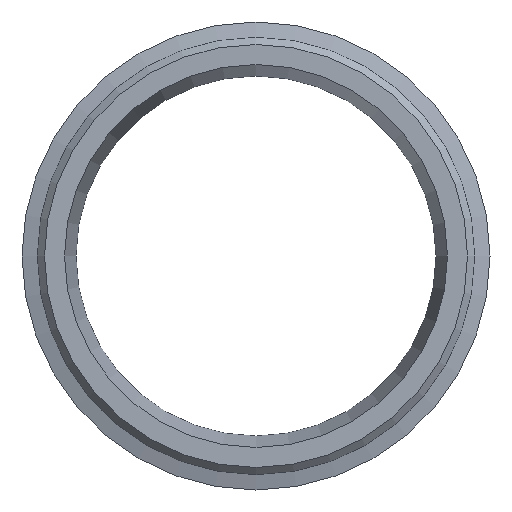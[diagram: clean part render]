
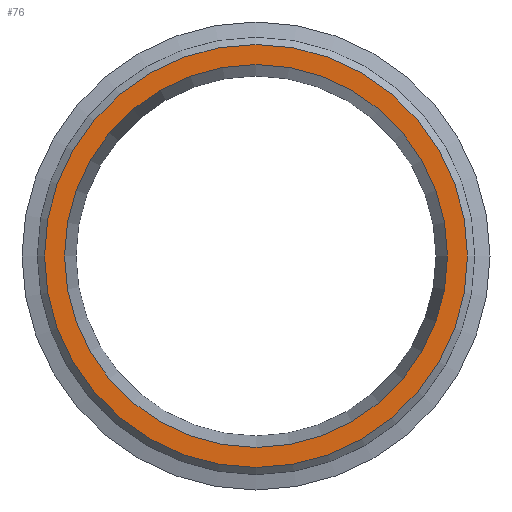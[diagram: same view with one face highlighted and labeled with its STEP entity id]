
A CAD part, left-side view. The second image highlights one B-rep face of the part: STEP entity #76.
In plain terms, the highlighted planar face has unit normal (-1, 0, 0).
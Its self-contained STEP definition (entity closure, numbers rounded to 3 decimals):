
#76=ADVANCED_FACE('',(#91,#92),#93,.T.);
#91=FACE_OUTER_BOUND('',#127,.T.);
#92=FACE_BOUND('',#128,.T.);
#93=PLANE('',#129);
#127=EDGE_LOOP('',(#165));
#128=EDGE_LOOP('',(#166));
#129=AXIS2_PLACEMENT_3D('',#167,#168,#169);
#165=ORIENTED_EDGE('',*,*,#222,.T.);
#166=ORIENTED_EDGE('',*,*,#220,.F.);
#167=CARTESIAN_POINT('',(0.0,21.273,0.0));
#168=DIRECTION('',(-1.0,0.0,0.0));
#169=DIRECTION('',(0.0,0.0,1.0));
#220=EDGE_CURVE('',#232,#232,#233,.T.);
#222=EDGE_CURVE('',#236,#236,#237,.T.);
#232=VERTEX_POINT('',#256);
#233=CIRCLE('',#257,21.273);
#236=VERTEX_POINT('',#260);
#237=CIRCLE('',#261,23.5);
#256=CARTESIAN_POINT('',(0.0,0.0,21.273));
#257=AXIS2_PLACEMENT_3D('',#280,#281,#282);
#260=CARTESIAN_POINT('',(0.0,0.0,23.5));
#261=AXIS2_PLACEMENT_3D('',#286,#287,#288);
#280=CARTESIAN_POINT('',(0.0,0.0,0.0));
#281=DIRECTION('',(-1.0,0.0,0.0));
#282=DIRECTION('',(0.0,0.0,1.0));
#286=CARTESIAN_POINT('',(0.0,0.0,0.0));
#287=DIRECTION('',(-1.0,0.0,0.0));
#288=DIRECTION('',(0.0,0.0,1.0));
